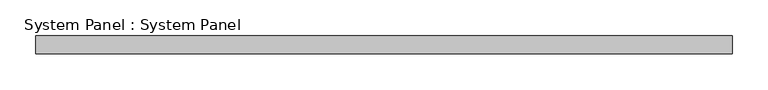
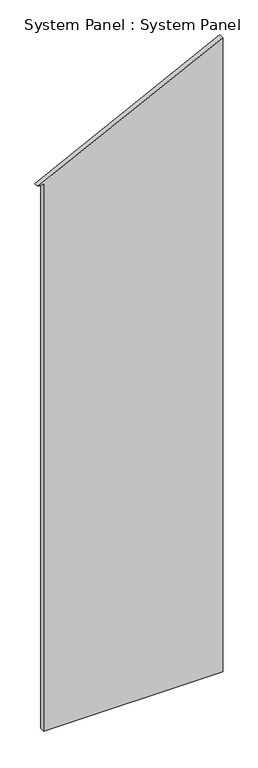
"""IFC4 building model written with IfcOpenShell, lengths in millimetres: plate geometry, System Panel : System Panel."""

from ifc_helpers import new_model, si_unit, frame, origin, place, context, project, spatial, polyline, outline, extrude, source, transform, mapped, element, save


def system_panel_system_panel_4dc2e190(model_context):
    return source(origin(), model_context, "Body", "SweptSolid", [
        extrude(outline(polyline([(0.0, 489.74375), (3550.44375, 489.74375), (3060.7, -489.74375), (3060.7, -457.99375), (0.0, -457.99375), (0.0, 489.74375)])), frame((0.0, 19.05, 0.0), z_axis=(0.0, 1.0, 0.0), x_axis=(0.0, 0.0, 1.0)), (0.0, 0.0, 1.0), 25.4),
    ])


if __name__ == "__main__":
    model = new_model("IFC4")
    model_context = context("Model", 3, world=origin())
    ifc_project = project(units=[si_unit("LENGTHUNIT", "METRE", prefix="MILLI")], contexts=[model_context])
    site = spatial("IfcSite", under=ifc_project)
    building = spatial("IfcBuilding", under=site)
    placement = place(None, origin())
    system_panel_system_panel_shape = system_panel_system_panel_4dc2e190(model_context)
    element("IfcPlate", 1, ObjectType="System Panel : System Panel", at=placement, inside=building, context=model_context, shape_type="MappedRepresentation", body=[
        mapped(system_panel_system_panel_shape, transform((0.0, 0.0, 0.0), x_axis=(1.0, 0.0, 0.0), y_axis=(0.0, 1.0, 0.0), z_axis=(0.0, 0.0, 1.0))),
    ])
    save(model, "model.ifc")
